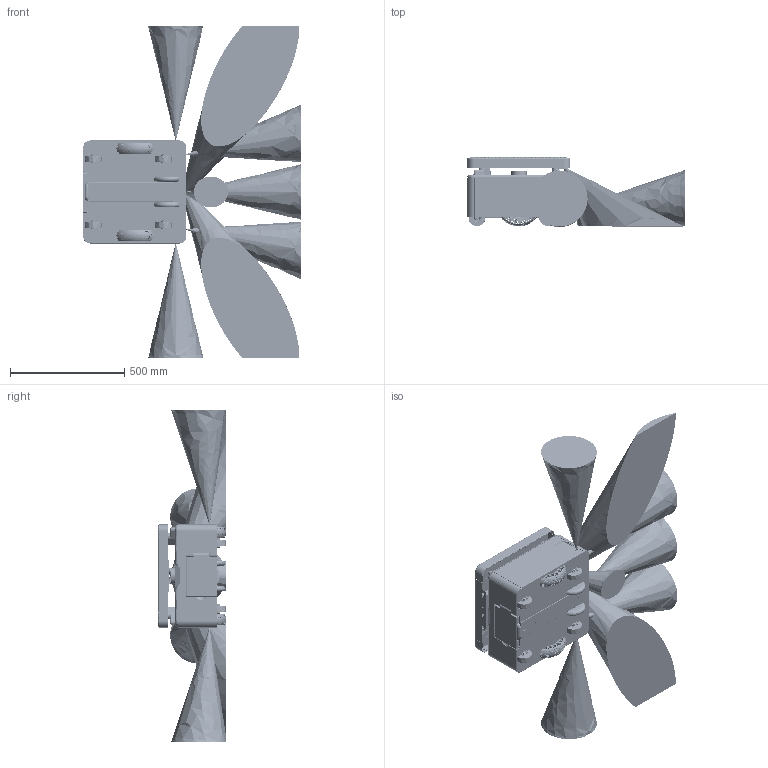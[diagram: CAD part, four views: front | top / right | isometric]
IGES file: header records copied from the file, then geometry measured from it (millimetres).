
Start section: SolidWorks IGES file using analytic representation for surfaces
Global section: file name: C:\Users\奥寛幸\Desktop\KeiganALI_outline3D_260109-IGS.IGS,15; native system: HSolidWorks 2024; preprocessor: SolidWorks 2024; author: 奥寛幸,,1; organization: 1; date: 260113.094809; units: millimetre
Bounding box: 950 x 300 x 1450 mm (x, y, z)
Surface area: 4551636.6 mm2 (no closed solid volume)
Topology: 0 solids, 0 shells, 7344 faces, 95853 edges, 95697 vertices
Faces by surface type: bspline 4718, revolution 2626
